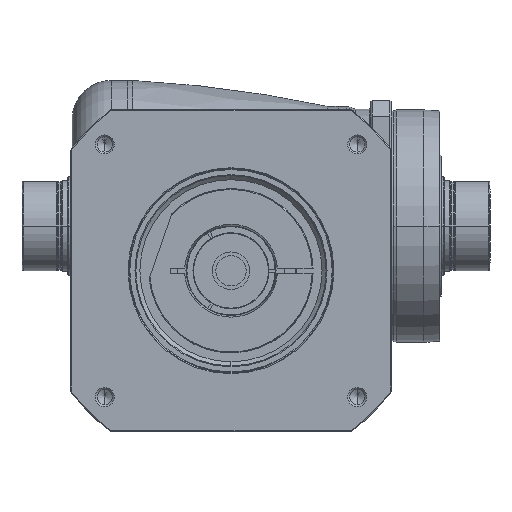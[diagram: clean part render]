
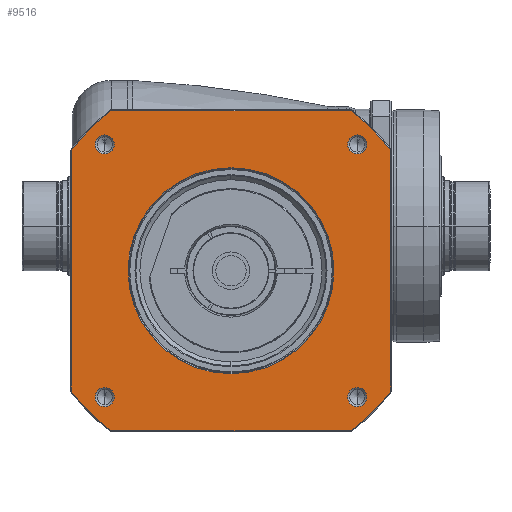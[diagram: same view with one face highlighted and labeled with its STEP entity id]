
A CAD part, front view. The second image highlights one B-rep face of the part: STEP entity #9516.
In plain terms, the highlighted planar face has unit normal (0, -1, 0) as drawn and (0, 0, 1) by its records, which use the part's own axes.
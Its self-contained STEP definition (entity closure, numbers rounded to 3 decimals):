
#8249=DIRECTION('',(1.,0.,0.));
#8250=VECTOR('',#8249,134.666);
#8251=CARTESIAN_POINT('',(-67.333,-89.5,41.));
#8252=LINE('',#8251,#8250);
#8262=CARTESIAN_POINT('',(0.,0.,
41.));
#8263=DIRECTION('',(0.,0.,-1.));
#8264=DIRECTION('',(0.,-1.,0.));
#8265=AXIS2_PLACEMENT_3D('',#8262,#8263,#8264);
#8267=CARTESIAN_POINT('',(0.,0.,
41.));
#8268=DIRECTION('',(0.,0.,-1.));
#8269=DIRECTION('',(0.,1.,0.));
#8270=AXIS2_PLACEMENT_3D('',#8267,#8268,#8269);
#8272=CARTESIAN_POINT('',(0.,0.,41.));
#8273=DIRECTION('',(0.,0.,1.));
#8274=DIRECTION('',(-0.799,-0.601,0.));
#8275=AXIS2_PLACEMENT_3D('',#8272,#8273,#8274);
#8287=DIRECTION('',(0.,-1.,0.));
#8288=VECTOR('',#8287,134.666);
#8289=CARTESIAN_POINT('',(-89.5,67.333,41.));
#8290=LINE('',#8289,#8288);
#8300=CARTESIAN_POINT('',(0.,0.,41.));
#8301=DIRECTION('',(0.,0.,1.));
#8302=DIRECTION('',(-0.601,0.799,0.));
#8303=AXIS2_PLACEMENT_3D('',#8300,#8301,#8302);
#8328=DIRECTION('',(-1.,0.,0.));
#8329=VECTOR('',#8328,134.666);
#8330=CARTESIAN_POINT('',(67.333,89.5,41.));
#8331=LINE('',#8330,#8329);
#8336=CARTESIAN_POINT('',(0.,0.,41.));
#8337=DIRECTION('',(0.,0.,1.));
#8338=DIRECTION('',(0.799,0.601,0.));
#8339=AXIS2_PLACEMENT_3D('',#8336,#8337,#8338);
#8351=DIRECTION('',(0.,1.,0.));
#8352=VECTOR('',#8351,134.666);
#8353=CARTESIAN_POINT('',(89.5,-67.333,41.));
#8354=LINE('',#8353,#8352);
#8456=CARTESIAN_POINT('',(0.,0.,41.));
#8457=DIRECTION('',(0.,0.,1.));
#8458=DIRECTION('',(0.601,-0.799,0.));
#8459=AXIS2_PLACEMENT_3D('',#8456,#8457,#8458);
#8733=CARTESIAN_POINT('',(-70.711,70.711,41.));
#8734=DIRECTION('',(0.,0.,1.));
#8735=DIRECTION('',(-1.,0.,0.));
#8736=AXIS2_PLACEMENT_3D('',#8733,#8734,#8735);
#8751=CARTESIAN_POINT('',(-70.711,70.711,41.));
#8752=DIRECTION('',(0.,0.,1.));
#8753=DIRECTION('',(1.,0.,0.));
#8754=AXIS2_PLACEMENT_3D('',#8751,#8752,#8753);
#8787=CARTESIAN_POINT('',(70.711,70.711,41.));
#8788=DIRECTION('',(0.,0.,1.));
#8789=DIRECTION('',(-1.,0.,0.));
#8790=AXIS2_PLACEMENT_3D('',#8787,#8788,#8789);
#8805=CARTESIAN_POINT('',(70.711,70.711,41.));
#8806=DIRECTION('',(0.,0.,1.));
#8807=DIRECTION('',(1.,0.,0.));
#8808=AXIS2_PLACEMENT_3D('',#8805,#8806,#8807);
#8841=CARTESIAN_POINT('',(70.711,-70.711,41.));
#8842=DIRECTION('',(0.,0.,1.));
#8843=DIRECTION('',(-1.,0.,0.));
#8844=AXIS2_PLACEMENT_3D('',#8841,#8842,#8843);
#8859=CARTESIAN_POINT('',(70.711,-70.711,41.));
#8860=DIRECTION('',(0.,0.,1.));
#8861=DIRECTION('',(1.,0.,0.));
#8862=AXIS2_PLACEMENT_3D('',#8859,#8860,#8861);
#8895=CARTESIAN_POINT('',(-70.711,-70.711,41.));
#8896=DIRECTION('',(0.,0.,1.));
#8897=DIRECTION('',(-1.,0.,0.));
#8898=AXIS2_PLACEMENT_3D('',#8895,#8896,#8897);
#8913=CARTESIAN_POINT('',(-70.711,-70.711,41.));
#8914=DIRECTION('',(0.,0.,1.));
#8915=DIRECTION('',(1.,0.,0.));
#8916=AXIS2_PLACEMENT_3D('',#8913,#8914,#8915);
#8957=CARTESIAN_POINT('',(89.5,-67.333,41.));
#8958=CARTESIAN_POINT('',(89.5,67.333,41.));
#8959=VERTEX_POINT('',#8957);
#8960=VERTEX_POINT('',#8958);
#8965=CARTESIAN_POINT('',(67.333,-89.5,41.));
#8966=VERTEX_POINT('',#8965);
#8969=CARTESIAN_POINT('',(-67.333,-89.5,41.));
#8970=VERTEX_POINT('',#8969);
#8973=CARTESIAN_POINT('',(-89.5,-67.333,41.));
#8974=VERTEX_POINT('',#8973);
#8977=CARTESIAN_POINT('',(-89.5,67.333,41.));
#8978=VERTEX_POINT('',#8977);
#8981=CARTESIAN_POINT('',(-67.333,89.5,41.));
#8982=VERTEX_POINT('',#8981);
#8985=CARTESIAN_POINT('',(67.333,89.5,41.));
#8986=VERTEX_POINT('',#8985);
#9035=CARTESIAN_POINT('',(-76.061,70.711,41.));
#9036=CARTESIAN_POINT('',(-65.361,70.711,41.));
#9037=VERTEX_POINT('',#9035);
#9038=VERTEX_POINT('',#9036);
#9069=CARTESIAN_POINT('',(76.061,70.711,41.));
#9070=CARTESIAN_POINT('',(65.361,70.711,41.));
#9071=VERTEX_POINT('',#9069);
#9072=VERTEX_POINT('',#9070);
#9077=CARTESIAN_POINT('',(76.061,-70.711,41.));
#9078=CARTESIAN_POINT('',(65.361,-70.711,41.));
#9079=VERTEX_POINT('',#9077);
#9080=VERTEX_POINT('',#9078);
#9085=CARTESIAN_POINT('',(-65.361,-70.711,41.));
#9086=CARTESIAN_POINT('',(-76.061,-70.711,41.));
#9087=VERTEX_POINT('',#9085);
#9088=VERTEX_POINT('',#9086);
#9093=CARTESIAN_POINT('',(0.,-57.65,41.));
#9094=CARTESIAN_POINT('',(0.,57.65,41.));
#9095=VERTEX_POINT('',#9093);
#9096=VERTEX_POINT('',#9094);
#9464=CARTESIAN_POINT('',(0.,0.,41.));
#9465=DIRECTION('',(0.,0.,1.));
#9466=DIRECTION('',(1.,0.,0.));
#9467=AXIS2_PLACEMENT_3D('',#9464,#9465,#9466);
#9468=PLANE('',#9467);
#9470=ORIENTED_EDGE('',*,*,#9469,.F.);
#9472=ORIENTED_EDGE('',*,*,#9471,.F.);
#9474=ORIENTED_EDGE('',*,*,#9473,.F.);
#9476=ORIENTED_EDGE('',*,*,#9475,.F.);
#9478=ORIENTED_EDGE('',*,*,#9477,.F.);
#9480=ORIENTED_EDGE('',*,*,#9479,.F.);
#9482=ORIENTED_EDGE('',*,*,#9481,.F.);
#9483=ORIENTED_EDGE('',*,*,#9454,.F.);
#9484=EDGE_LOOP('',(#9470,#9472,#9474,#9476,#9478,#9480,#9482,#9483));
#9485=FACE_OUTER_BOUND('',#9484,.F.);
#9487=ORIENTED_EDGE('',*,*,#9486,.F.);
#9489=ORIENTED_EDGE('',*,*,#9488,.F.);
#9490=EDGE_LOOP('',(#9487,#9489));
#9491=FACE_BOUND('',#9490,.F.);
#9493=ORIENTED_EDGE('',*,*,#9492,.T.);
#9495=ORIENTED_EDGE('',*,*,#9494,.T.);
#9496=EDGE_LOOP('',(#9493,#9495));
#9497=FACE_BOUND('',#9496,.F.);
#9499=ORIENTED_EDGE('',*,*,#9498,.T.);
#9501=ORIENTED_EDGE('',*,*,#9500,.T.);
#9502=EDGE_LOOP('',(#9499,#9501));
#9503=FACE_BOUND('',#9502,.F.);
#9505=ORIENTED_EDGE('',*,*,#9504,.T.);
#9507=ORIENTED_EDGE('',*,*,#9506,.T.);
#9508=EDGE_LOOP('',(#9505,#9507));
#9509=FACE_BOUND('',#9508,.F.);
#9511=ORIENTED_EDGE('',*,*,#9510,.T.);
#9513=ORIENTED_EDGE('',*,*,#9512,.T.);
#9514=EDGE_LOOP('',(#9511,#9513));
#9515=FACE_BOUND('',#9514,.F.);
#9516=ADVANCED_FACE('',(#9485,#9491,#9497,#9503,#9509,#9515),#9468,.T.);
#8266=CIRCLE('',#8265,57.65);
#8271=CIRCLE('',#8270,57.65);
#8276=CIRCLE('',#8275,112.);
#8304=CIRCLE('',#8303,112.);
#8340=CIRCLE('',#8339,112.);
#8460=CIRCLE('',#8459,112.);
#8737=CIRCLE('',#8736,5.35);
#8755=CIRCLE('',#8754,5.35);
#8791=CIRCLE('',#8790,5.35);
#8809=CIRCLE('',#8808,5.35);
#8845=CIRCLE('',#8844,5.35);
#8863=CIRCLE('',#8862,5.35);
#8899=CIRCLE('',#8898,5.35);
#8917=CIRCLE('',#8916,5.35);
#9454=EDGE_CURVE('',#8970,#8966,#8252,.T.);
#9469=EDGE_CURVE('',#8974,#8970,#8276,.T.);
#9471=EDGE_CURVE('',#8978,#8974,#8290,.T.);
#9473=EDGE_CURVE('',#8982,#8978,#8304,.T.);
#9475=EDGE_CURVE('',#8986,#8982,#8331,.T.);
#9477=EDGE_CURVE('',#8960,#8986,#8340,.T.);
#9479=EDGE_CURVE('',#8959,#8960,#8354,.T.);
#9481=EDGE_CURVE('',#8966,#8959,#8460,.T.);
#9486=EDGE_CURVE('',#9095,#9096,#8266,.T.);
#9488=EDGE_CURVE('',#9096,#9095,#8271,.T.);
#9492=EDGE_CURVE('',#9037,#9038,#8737,.T.);
#9494=EDGE_CURVE('',#9038,#9037,#8755,.T.);
#9498=EDGE_CURVE('',#9072,#9071,#8791,.T.);
#9500=EDGE_CURVE('',#9071,#9072,#8809,.T.);
#9504=EDGE_CURVE('',#9080,#9079,#8845,.T.);
#9506=EDGE_CURVE('',#9079,#9080,#8863,.T.);
#9510=EDGE_CURVE('',#9088,#9087,#8899,.T.);
#9512=EDGE_CURVE('',#9087,#9088,#8917,.T.);
